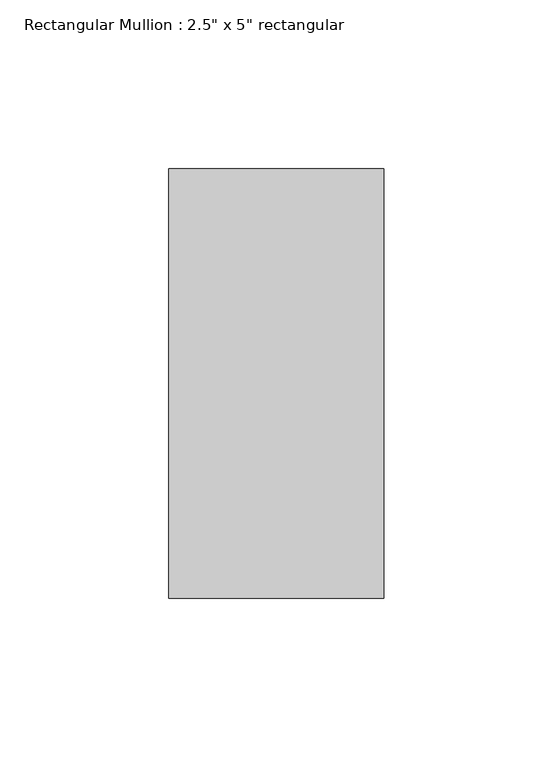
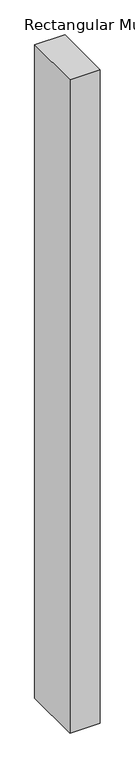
"""IFC4 building model written with IfcOpenShell, lengths in millimetres: member geometry."""

from ifc_helpers import new_model, si_unit, frame, origin, place, context, project, spatial, polyline, outline, extrude, source, transform, mapped, element, save


def member_01a96303(model_context):
    return source(origin(), model_context, "Body", "SweptSolid", [
        extrude(outline(polyline([(31.75, 63.5), (31.75, -63.5), (-31.75, -63.5), (-31.75, 63.5), (31.75, 63.5)])), frame((0.0, 0.0, -1441.8416906), z_axis=(0.0, 0.0, 1.0), x_axis=(1.0, 0.0, 0.0)), (0.0, 0.0, 1.0), 1441.8416906),
    ])


if __name__ == "__main__":
    model = new_model("IFC4")
    model_context = context("Model", 3, world=origin())
    ifc_project = project(units=[si_unit("LENGTHUNIT", "METRE", prefix="MILLI")], contexts=[model_context])
    site = spatial("IfcSite", under=ifc_project)
    building = spatial("IfcBuilding", under=site)
    placement = place(None, origin())
    member_shape = member_01a96303(model_context)
    element("IfcMember", 1, ObjectType="Rectangular Mullion : 2.5\" x 5\" rectangular", at=placement, inside=building, context=model_context, shape_type="MappedRepresentation", body=[
        mapped(member_shape, transform((0.0, 0.0, 0.0), x_axis=(1.0, 0.0, 0.0), y_axis=(0.0, 1.0, 0.0), z_axis=(0.0, 0.0, 1.0))),
    ])
    save(model, "model.ifc")
